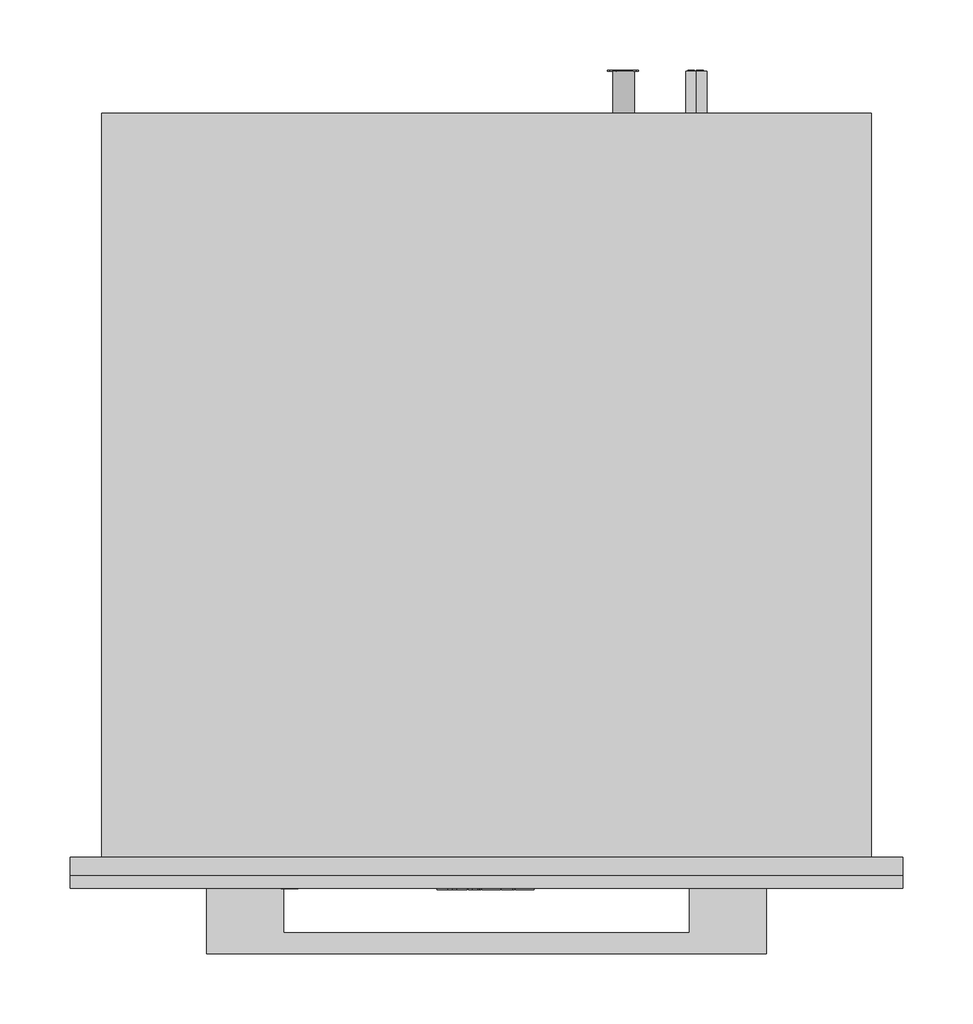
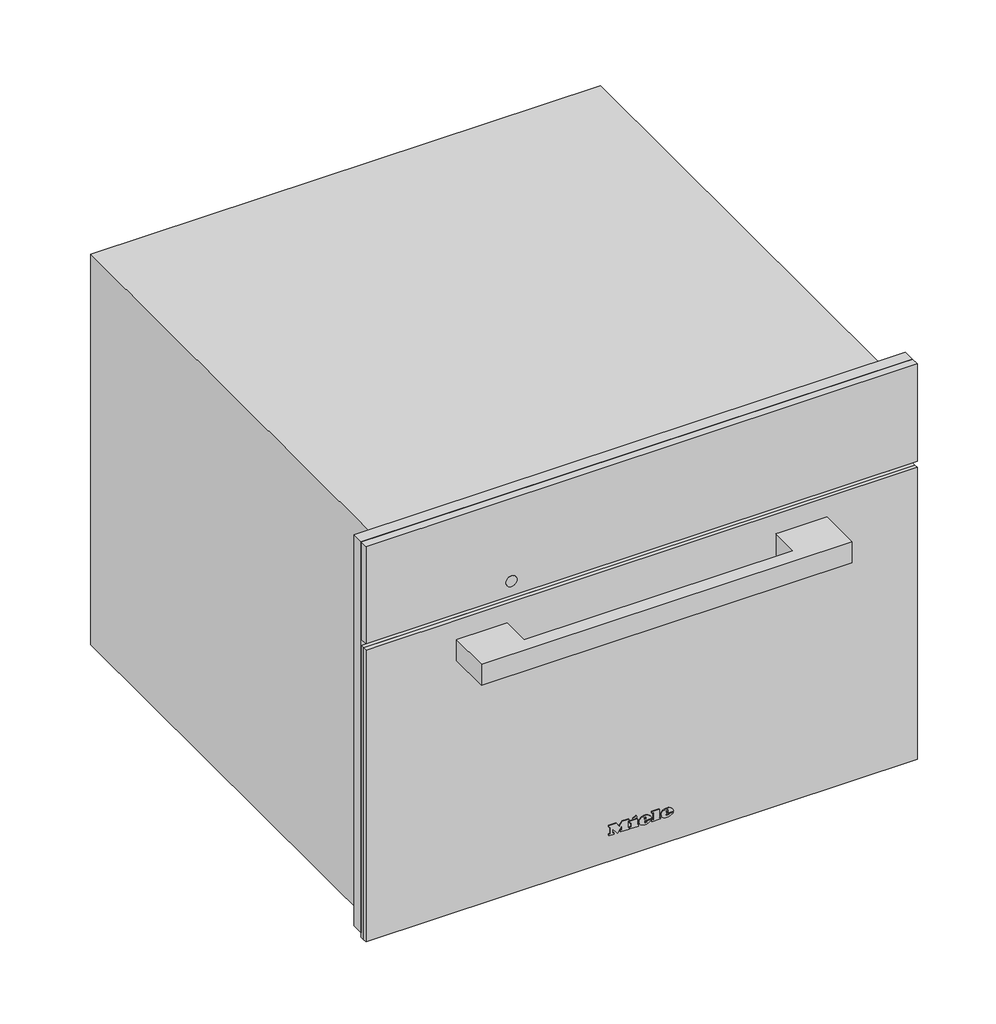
# Not in any storey: 1 proxy.
"""IFC4 building model written with IfcOpenShell, lengths in millimetres."""

import ifcopenshell
import ifcopenshell.guid

model = None  # the IFC model being written
_history = None  # IfcOwnerHistory: only IFC2X3 demands one
_inside = {}  # id of a spatial element -> (the spatial element, [elements in it])
_under = {}  # id of a project, library or spatial element -> (it, [spatial elements below it])
_declared = {}  # id of a project -> (the project, [libraries it declares])
_typed = {}  # id of a type object -> (the type object, [elements of that type])
_made_of = {}  # id of a material, layer set ... -> (it, [elements and type objects made of it])


def new_model(schema):
    """Start an empty IFC model of exactly this schema.

    Asked for "IFC4X3", IfcOpenShell would pick the latest addendum, in which some entities
    have other attributes; the version numbers below select the first issue.
    IFC2X3 requires an IfcOwnerHistory on every rooted entity: one is made here for all.
    """
    global model, _history
    if schema == "IFC4X3":
        model = ifcopenshell.file(schema_version=(4, 3, 0, 0))
    else:
        model = ifcopenshell.file(schema=schema)
    _inside.clear()
    _under.clear()
    _declared.clear()
    _typed.clear()
    _made_of.clear()
    _history = None
    if model.schema == "IFC2X3":
        org = make("IfcOrganization", Name="unknown")
        user = make(
            "IfcPersonAndOrganization",
            ThePerson=make("IfcPerson", FamilyName="unknown"),
            TheOrganization=org,
        )
        app = make(
            "IfcApplication",
            ApplicationDeveloper=org,
            Version="unknown",
            ApplicationFullName="unknown",
            ApplicationIdentifier="unknown",
        )
        _history = make(
            "IfcOwnerHistory",
            OwningUser=user,
            OwningApplication=app,
            ChangeAction="ADDED",
            CreationDate=0,
        )
    return model


def make(cls, **values):
    """One entity of the class cls with the attributes given. An attribute that is None is left unset."""
    return model.create_entity(
        cls, **{name: value for name, value in values.items() if value is not None}
    )


def rooted(cls, **values):
    """An entity with a GlobalId (a new one), such as an element, a storey or a relation."""
    return make(cls, GlobalId=ifcopenshell.guid.new(), OwnerHistory=_history, **values)


def si_unit(unit_type, name, prefix=None):
    """IfcSIUnit, for example si_unit("LENGTHUNIT", "METRE", prefix="MILLI")."""
    return make("IfcSIUnit", UnitType=unit_type, Prefix=prefix, Name=name)


def assignment(units):
    """IfcUnitAssignment: the units of a project."""
    return None if units is None else make("IfcUnitAssignment", Units=units)


def point(xyz):
    """IfcCartesianPoint."""
    return None if xyz is None else make("IfcCartesianPoint", Coordinates=xyz)


def direction(xyz):
    """IfcDirection."""
    return None if xyz is None else make("IfcDirection", DirectionRatios=xyz)


def frame(location, z_axis=None, x_axis=None):
    """IfcAxis2Placement3D, a coordinate frame: its origin and axes. An axis left out is left unset."""
    return make(
        "IfcAxis2Placement3D",
        Location=point(location),
        Axis=direction(z_axis),
        RefDirection=direction(x_axis),
    )


def frame_2d(location, x_axis=None):
    """IfcAxis2Placement2D, a coordinate frame in the plane: its origin and x axis."""
    return make(
        "IfcAxis2Placement2D", Location=point(location), RefDirection=direction(x_axis)
    )


def origin():
    """The frame at (0, 0, 0) with its axes left unset."""
    return frame((0.0, 0.0, 0.0))


def place(relative_to, where):
    """IfcLocalPlacement: puts the frame where relative to a parent placement (None: the world)."""
    return make(
        "IfcLocalPlacement", PlacementRelTo=relative_to, RelativePlacement=where
    )


def context(
    kind, dimensions, precision=None, world=None, true_north=None, identifier=None
):
    """IfcGeometricRepresentationContext, for example the 3D "Model" context."""
    return make(
        "IfcGeometricRepresentationContext",
        ContextIdentifier=identifier,
        ContextType=kind,
        CoordinateSpaceDimension=dimensions,
        Precision=precision,
        WorldCoordinateSystem=world,
        TrueNorth=true_north,
    )


def project(units=None, contexts=None):
    """IfcProject with its units and contexts."""
    return rooted(
        "IfcProject",
        Name="project",
        RepresentationContexts=contexts,
        UnitsInContext=assignment(units),
    )


def spatial(cls, under=None, at=None, **own):
    """A site, building, storey or space (cls), placed at a placement, below another one or the project."""
    s = rooted(cls, ObjectPlacement=at, **own)
    if under is not None:
        _under.setdefault(under.id(), (under, []))[1].append(s)
    return s


def polyline(points):
    """IfcPolyline through the points."""
    return make("IfcPolyline", Points=[point(p) for p in points])


def circle_curve(where, radius):
    """IfcCircle in the frame where."""
    return make("IfcCircle", Position=where, Radius=radius)


def ellipse_curve(where, semi_axis1, semi_axis2):
    """IfcEllipse in the frame where."""
    return make(
        "IfcEllipse", Position=where, SemiAxis1=semi_axis1, SemiAxis2=semi_axis2
    )


def trimmed(basis, trim1, trim2, sense, master):
    """IfcTrimmedCurve: the piece of a basis curve between two trims."""
    return make(
        "IfcTrimmedCurve",
        BasisCurve=basis,
        Trim1=trim1,
        Trim2=trim2,
        SenseAgreement=sense,
        MasterRepresentation=master,
    )


def segment(curve, same_sense, transition):
    """IfcCompositeCurveSegment."""
    return make(
        "IfcCompositeCurveSegment",
        Transition=transition,
        SameSense=same_sense,
        ParentCurve=curve,
    )


def composite_curve(segments, self_intersect=None):
    """IfcCompositeCurve: segments joined end to end."""
    return make("IfcCompositeCurve", Segments=segments, SelfIntersect=self_intersect)


def outline(outer, holes=None, kind="AREA"):
    """IfcArbitraryClosedProfileDef: a profile drawn as a closed curve; with holes, ...WithVoids."""
    if holes is None:
        return make("IfcArbitraryClosedProfileDef", ProfileType=kind, OuterCurve=outer)
    return make(
        "IfcArbitraryProfileDefWithVoids",
        ProfileType=kind,
        OuterCurve=outer,
        InnerCurves=holes,
    )


def extrude(swept, where, along, depth):
    """IfcExtrudedAreaSolid: the profile swept, set in the frame where, extruded along a direction by depth."""
    return make(
        "IfcExtrudedAreaSolid",
        SweptArea=swept,
        Position=where,
        ExtrudedDirection=direction(along),
        Depth=depth,
    )


def faces_of(points, faces, orient=None, outer=None):
    """IfcFace entities. A face is a list of loops; a loop is a list of indices into points, from 0.

    orient and outer hold one flag for each loop. By default every Orientation is true, the
    first loop of a face is its IfcFaceOuterBound and the others are IfcFaceBound.
    """
    made = []
    for i, loops in enumerate(faces):
        bounds = []
        for j, loop in enumerate(loops):
            is_outer = j == 0 if outer is None else outer[i][j]
            bounds.append(
                make(
                    "IfcFaceOuterBound" if is_outer else "IfcFaceBound",
                    Bound=make("IfcPolyLoop", Polygon=[points[k] for k in loop]),
                    Orientation=True if orient is None else orient[i][j],
                )
            )
        made.append(make("IfcFace", Bounds=bounds))
    return made


def faceted_brep(points, faces, orient=None, outer=None, voids=None):
    """IfcFacetedBrep: a solid bounded by flat faces; with voids (closed shells), ...WithVoids."""
    shared = [point(p) for p in points]
    hull = make("IfcClosedShell", CfsFaces=faces_of(shared, faces, orient, outer))
    if voids is None:
        return make("IfcFacetedBrep", Outer=hull)
    return make(
        "IfcFacetedBrepWithVoids",
        Outer=hull,
        Voids=[
            make(cls, CfsFaces=faces_of(shared, fs, o, b)) for cls, fs, o, b in voids
        ],
    )


def shape(context_of_items, identifier, shape_type, items):
    """IfcShapeRepresentation: the items that make up one representation, for example the "Body"."""
    return make(
        "IfcShapeRepresentation",
        ContextOfItems=context_of_items,
        RepresentationIdentifier=identifier,
        RepresentationType=shape_type,
        Items=items,
    )


def source(mapping_origin, context_of_items, identifier, shape_type, items):
    """IfcRepresentationMap: a shape defined once, which mapped items show again and again."""
    return make(
        "IfcRepresentationMap",
        MappingOrigin=mapping_origin,
        MappedRepresentation=shape(context_of_items, identifier, shape_type, items),
    )


def transform(
    local_origin,
    x_axis=None,
    y_axis=None,
    z_axis=None,
    scale=None,
    scale2=None,
    scale3=None,
    uniform=True,
):
    """IfcCartesianTransformationOperator3D, or its non-uniform kind. x_axis, y_axis, z_axis: its Axis1, 2, 3."""
    if uniform:
        return make(
            "IfcCartesianTransformationOperator3D",
            Axis1=direction(x_axis),
            Axis2=direction(y_axis),
            LocalOrigin=point(local_origin),
            Scale=scale,
            Axis3=direction(z_axis),
        )
    return make(
        "IfcCartesianTransformationOperator3DnonUniform",
        Axis1=direction(x_axis),
        Axis2=direction(y_axis),
        LocalOrigin=point(local_origin),
        Scale=scale,
        Axis3=direction(z_axis),
        Scale2=scale2,
        Scale3=scale3,
    )


def mapped(mapping_source, mapping_target):
    """IfcMappedItem: shows the shape of a source again, moved by a transform."""
    return make(
        "IfcMappedItem", MappingSource=mapping_source, MappingTarget=mapping_target
    )


def made_of(thing, what):
    """Note that an element or type object is made of a material, layer set ...; save() writes the relation."""
    if what is not None:
        _made_of.setdefault(what.id(), (what, []))[1].append(thing)
    return thing


def element(
    cls,
    number,
    at=None,
    inside=None,
    cuts=None,
    type_object=None,
    material=None,
    context=None,
    identifier="Body",
    shape_type=None,
    held_by="IfcProductDefinitionShape",
    body=None,
    shapes=None,
    **own,
):
    """One element of the class cls, such as IfcWall. Its Tag is "e" and its number.

    at: its placement. inside: the storey or other place that contains it. cuts: it is an
    opening in that element (IfcRelVoidsElement). A single representation is given by context,
    identifier, shape_type and body (its items); several are given by shapes. held_by: the class
    of the entity that holds the representations. save() writes the other relations.
    """
    e = rooted(cls, Tag="e%d" % number, ObjectPlacement=at, **own)
    if body is not None:
        shapes = [shape(context, identifier, shape_type, body)]
    if shapes is not None:
        e.Representation = make(held_by, Representations=shapes)
    if inside is not None:
        _inside.setdefault(inside.id(), (inside, []))[1].append(e)
    if cuts is not None:
        rooted(
            "IfcRelVoidsElement", RelatingBuildingElement=cuts, RelatedOpeningElement=e
        )
    if type_object is not None:
        _typed.setdefault(type_object.id(), (type_object, []))[1].append(e)
    return made_of(e, material)


def aggregate(whole, parts):
    """IfcRelAggregates: a whole, such as a stair, and the parts it consists of."""
    return rooted("IfcRelAggregates", RelatingObject=whole, RelatedObjects=parts)


def save(model, path):
    """Write the relations noted so far, then the file.

    IfcRelAggregates (storeys below a building ...), IfcRelContainedInSpatialStructure (elements
    in a storey), IfcRelDefinesByType, IfcRelAssociatesMaterial and IfcRelDeclares: one each for
    every whole, place, type object, material and project.
    """
    for whole, parts in _under.values():
        aggregate(whole, parts)
    for where, things in _inside.values():
        rooted(
            "IfcRelContainedInSpatialStructure",
            RelatedElements=things,
            RelatingStructure=where,
        )
    for kind, things in _typed.values():
        rooted("IfcRelDefinesByType", RelatedObjects=things, RelatingType=kind)
    for what, things in _made_of.values():
        rooted("IfcRelAssociatesMaterial", RelatedObjects=things, RelatingMaterial=what)
    for by, libraries in _declared.values():
        rooted("IfcRelDeclares", RelatingContext=by, RelatedDefinitions=libraries)
    model.write(path)


def plane_surface(at):
    """IfcPlane: the flat surface through the origin of the frame at, square to its z axis."""
    return make("IfcPlane", Position=at)


def cylinder_surface(at, radius):
    """IfcCylindricalSurface: all points at the distance radius from the z axis of the frame at."""
    return make("IfcCylindricalSurface", Position=at, Radius=radius)


def revolved_surface(curve, axis_point, axis_direction):
    """IfcSurfaceOfRevolution: the curve turned about the line through axis_point along axis_direction."""
    return make(
        "IfcSurfaceOfRevolution",
        SweptCurve=make("IfcArbitraryOpenProfileDef", ProfileType="CURVE", Curve=curve),
        AxisPosition=make("IfcAxis1Placement", Location=point(axis_point), Axis=direction(axis_direction)),
    )


def extruded_surface(curve, direction_of_extrusion, depth):
    """IfcSurfaceOfLinearExtrusion: the curve pushed along a direction by depth."""
    return make(
        "IfcSurfaceOfLinearExtrusion",
        SweptCurve=make("IfcArbitraryOpenProfileDef", ProfileType="CURVE", Curve=curve),
        ExtrudedDirection=direction(direction_of_extrusion),
        Depth=depth,
    )


def advanced_brep(points, edges, surfaces, faces):
    """IfcAdvancedBrep: a solid bounded by faces that lie on surfaces and meet in shared edges.

    An edge is (start, end): straight between two places in points (the first is 0);
    or (start, end, curve); or (start, end, curve, False) where it runs against its curve.
    A face is (place in surfaces, loops), or (place, loops, False) where it looks against
    its surface's normal. A loop lists edges by number (the first is 1), with a minus sign
    where the edge is run from its end to its start. The first loop is the outer one.
    """
    corners = [point(p) for p in points]
    vertices = [make("IfcVertexPoint", VertexGeometry=c) for c in corners]
    made = []
    for start, end, *more in edges:
        made.append(
            make(
                "IfcEdgeCurve",
                EdgeStart=vertices[start],
                EdgeEnd=vertices[end],
                EdgeGeometry=more[0] if more else make("IfcPolyline", Points=[corners[start], corners[end]]),
                SameSense=more[1] if len(more) > 1 else True,
            )
        )
    hull = []
    for where, loops, *sense in faces:
        bounds = []
        for j, loop in enumerate(loops):
            ring = [make("IfcOrientedEdge", EdgeElement=made[abs(k) - 1], Orientation=k > 0) for k in loop]
            bounds.append(
                make(
                    "IfcFaceOuterBound" if j == 0 else "IfcFaceBound",
                    Bound=make("IfcEdgeLoop", EdgeList=ring),
                    Orientation=True,
                )
            )
        hull.append(make("IfcAdvancedFace", Bounds=bounds, FaceSurface=surfaces[where], SameSense=sense[0] if sense else True))
    return make("IfcAdvancedBrep", Outer=make("IfcClosedShell", CfsFaces=hull))


def specialty_equipment_98d2ad13(model_context):
    return source(origin(), model_context, "Body", "SolidModel", [
        extrude(outline(polyline([(455.0, 297.5), (455.0, -297.5), (9.0, -297.5), (9.0, -272.5), (344.0, -272.5), (344.0, 272.5), (9.0, 272.5), (9.0, 297.5), (455.0, 297.5)])), frame((0.0, -13.0, 0.0), z_axis=(0.0, 1.0, 0.0), x_axis=(0.0, 0.0, 1.0)), (0.0, 0.0, 1.0), 13.0),
        extrude(outline(polyline([(378.0, 95.9217896), (378.0, 97.4267862), (388.0435673, 100.1942402), (388.0435673, 98.9014806), (379.4295103, 96.7797951), (388.0470645, 94.3087512), (388.0470645, 92.4373937), (379.4121052, 89.9191482), (388.0472266, 87.8443938), (388.0472266, 86.5376524), (378.0, 89.2769667), (378.0, 90.6257455), (386.8347238, 93.3884733), (378.0, 95.9217896)])), frame((0.0, 561.0, 0.0), z_axis=(0.0, 1.0, 0.0), x_axis=(0.0, 0.0, 1.0)), (0.0, 0.0, 1.0), 1.0),
        extrude(outline(polyline([(388.0468463, 108.521488), (388.0468463, 107.2566067), (383.129594, 107.2566067), (388.0474898, 102.1074328), (388.0474898, 100.3597489), (383.9313111, 104.6695027), (378.0, 100.1858157), (378.0, 101.7358731), (383.0700777, 105.5685235), (381.4282746, 107.2823622), (378.0, 107.2823622), (378.0, 108.521488), (388.0468463, 108.521488)])), frame((0.0, 561.0, 0.0), z_axis=(0.0, 1.0, 0.0), x_axis=(0.0, 0.0, 1.0)), (0.0, 0.0, 1.0), 1.0),
        advanced_brep(
        [(150.0, 561.0, 410.5), (150.0, 561.0, 395.5), (144.4098301, 561.0, 398.0), (148.5, 561.0, 398.0), (148.5, 561.0, 408.0), (147.4955303, 561.0, 408.0), (147.4955303, 561.0, 399.0), (144.0315043, 561.0, 399.0), (144.0315043, 561.0, 398.4582978), (155.0, 561.0, 398.0), (155.0, 561.0, 408.0), (150.0, 561.0, 408.0), (150.0, 561.0, 407.0), (154.0, 561.0, 407.0), (154.0, 561.0, 403.5), (151.0, 561.0, 403.5), (151.0, 561.0, 402.5), (154.0, 561.0, 402.5), (154.0, 561.0, 399.0), (150.0, 561.0, 399.0), (150.0, 561.0, 398.0), (150.0, 531.0, 395.5), (150.0, 531.0, 410.5), (155.0, 562.0, 408.0), (155.0, 562.0, 398.0), (150.0, 562.0, 398.0), (150.0, 562.0, 399.0), (154.0, 562.0, 399.0), (154.0, 562.0, 402.5), (151.0, 562.0, 402.5), (151.0, 562.0, 403.5), (154.0, 562.0, 403.5), (154.0, 562.0, 407.0), (150.0, 562.0, 407.0), (150.0, 562.0, 408.0), (148.5, 562.0, 398.0), (144.0315043, 562.0, 398.0), (144.0315043, 562.0, 399.0), (147.4955303, 562.0, 399.0), (147.4955303, 562.0, 408.0), (148.5, 562.0, 408.0), (144.0315043, 561.0, 398.0)],
        [
            (0, 1, circle_curve(frame((150.0, 561.0, 403.0), z_axis=(0.0, 1.0, 0.0), x_axis=(0.0, 0.0, 1.0)), 7.5)),
            (1, 2, circle_curve(frame((150.0, 561.0, 403.0), z_axis=(0.0, 1.0, 0.0), x_axis=(0.0, 0.0, 1.0)), 7.5)),
            (2, 3),
            (3, 4),
            (4, 5),
            (5, 6),
            (6, 7),
            (7, 8),
            (8, 0, circle_curve(frame((150.0, 561.0, 403.0), z_axis=(0.0, 1.0, 0.0), x_axis=(0.0, 0.0, 1.0)), 7.5)),
            (9, 10),
            (10, 11),
            (11, 12),
            (12, 13),
            (13, 14),
            (14, 15),
            (15, 16),
            (16, 17),
            (17, 18),
            (18, 19),
            (19, 20),
            (20, 9),
            (21, 22, circle_curve(frame((150.0, 531.0, 403.0), z_axis=(0.0, -1.0, 0.0), x_axis=(0.0, 0.0, 1.0)), 7.5)),
            (22, 21, circle_curve(frame((150.0, 531.0, 403.0), z_axis=(0.0, -1.0, 0.0), x_axis=(0.0, 0.0, 1.0)), 7.5)),
            (0, 22),
            (21, 1),
            (8, 2, circle_curve(frame((150.0, 561.0, 403.0), z_axis=(0.0, -1.0, 0.0), x_axis=(0.0, 0.0, 1.0)), 7.5)),
            (23, 24),
            (24, 25),
            (25, 26),
            (26, 27),
            (27, 28),
            (28, 29),
            (29, 30),
            (30, 31),
            (31, 32),
            (32, 33),
            (33, 34),
            (34, 23),
            (35, 36),
            (36, 37),
            (37, 38),
            (38, 39),
            (39, 40),
            (40, 35),
            (8, 41),
            (41, 2),
            (23, 10),
            (9, 24),
            (20, 25),
            (19, 26),
            (18, 27),
            (17, 28),
            (16, 29),
            (15, 30),
            (14, 31),
            (13, 32),
            (12, 33),
            (11, 34),
            (35, 3),
            (41, 36),
            (7, 37),
            (6, 38),
            (5, 39),
            (4, 40),
        ],
        [
            plane_surface(frame((150.0, 561.0, 410.5), z_axis=(0.0, 1.0, 0.0), x_axis=(1.0, 0.0, 0.0))),
            plane_surface(frame((150.0, 531.0, 410.5), z_axis=(0.0, -1.0, 0.0), x_axis=(-1.0, 0.0, 0.0))),
            cylinder_surface(frame((150.0, 561.0, 403.0), z_axis=(0.0, -1.0, 0.0), x_axis=(0.0, 0.0, 1.0)), 7.5),
            plane_surface(frame((155.0, 562.0, 408.0), z_axis=(0.0, 1.0, 0.0), x_axis=(0.0, 0.0, -1.0))),
            plane_surface(frame((155.0, 561.0, 408.0), z_axis=(0.0, -1.0, 0.0), x_axis=(0.0, 0.0, 1.0))),
            plane_surface(frame((155.0, 562.0, 408.0), z_axis=(1.0, 0.0, 0.0), x_axis=(0.0, -1.0, 0.0))),
            plane_surface(frame((155.0, 562.0, 398.0), z_axis=(0.0, 0.0, -1.0), x_axis=(0.0, -1.0, 0.0))),
            plane_surface(frame((150.0, 562.0, 398.0), z_axis=(-1.0, 0.0, 0.0), x_axis=(0.0, -1.0, 0.0))),
            plane_surface(frame((150.0, 562.0, 399.0), z_axis=(0.0, 0.0, 1.0), x_axis=(0.0, -1.0, 0.0))),
            plane_surface(frame((154.0, 562.0, 399.0), z_axis=(-1.0, 0.0, 0.0), x_axis=(0.0, -1.0, 0.0))),
            plane_surface(frame((154.0, 562.0, 402.5), z_axis=(0.0, 0.0, -1.0), x_axis=(0.0, -1.0, 0.0))),
            plane_surface(frame((151.0, 562.0, 402.5), z_axis=(-1.0, 0.0, 0.0), x_axis=(0.0, -1.0, 0.0))),
            plane_surface(frame((151.0, 562.0, 403.5), z_axis=(0.0, 0.0, 1.0), x_axis=(0.0, -1.0, 0.0))),
            plane_surface(frame((154.0, 562.0, 403.5), z_axis=(-1.0, 0.0, 0.0), x_axis=(0.0, -1.0, 0.0))),
            plane_surface(frame((154.0, 562.0, 407.0), z_axis=(0.0, 0.0, -1.0), x_axis=(0.0, -1.0, 0.0))),
            plane_surface(frame((150.0, 562.0, 407.0), z_axis=(-1.0, 0.0, 0.0), x_axis=(0.0, -1.0, 0.0))),
            plane_surface(frame((150.0, 562.0, 408.0), z_axis=(0.0, 0.0, 1.0), x_axis=(0.0, -1.0, 0.0))),
            plane_surface(frame((148.5, 562.0, 398.0), z_axis=(0.0, 0.0, -1.0), x_axis=(0.0, -1.0, 0.0))),
            plane_surface(frame((144.0315043, 562.0, 398.0), z_axis=(-1.0, 0.0, 0.0), x_axis=(0.0, -1.0, 0.0))),
            plane_surface(frame((144.0315043, 562.0, 399.0), z_axis=(0.0, 0.0, 1.0), x_axis=(0.0, -1.0, 0.0))),
            plane_surface(frame((147.4955303, 562.0, 399.0), z_axis=(-1.0, 0.0, 0.0), x_axis=(0.0, -1.0, 0.0))),
            plane_surface(frame((147.4955303, 562.0, 408.0), z_axis=(0.0, 0.0, 1.0), x_axis=(0.0, -1.0, 0.0))),
            plane_surface(frame((148.5, 562.0, 408.0), z_axis=(1.0, 0.0, 0.0), x_axis=(0.0, -1.0, 0.0))),
        ],
        [
            (0, [[1, 2, 3, 4, 5, 6, 7, 8, 9], [10, 11, 12, 13, 14, 15, 16, 17, 18, 19, 20, 21]]),
            (1, [[22, 23]]),
            (2, [[-1, 24, -22, 25]]),
            (2, [[-23, -24, -9, 26, -2, -25]]),
            (3, [[27, 28, 29, 30, 31, 32, 33, 34, 35, 36, 37, 38]]),
            (3, [[39, 40, 41, 42, 43, 44]]),
            (4, [[45, 46, -26]]),
            (5, [[-27, 47, -10, 48]]),
            (6, [[-28, -48, -21, 49]]),
            (7, [[-29, -49, -20, 50]]),
            (8, [[-30, -50, -19, 51]]),
            (9, [[-31, -51, -18, 52]]),
            (10, [[-32, -52, -17, 53]]),
            (11, [[-33, -53, -16, 54]]),
            (12, [[-34, -54, -15, 55]]),
            (13, [[-35, -55, -14, 56]]),
            (14, [[-36, -56, -13, 57]]),
            (15, [[-37, -57, -12, 58]]),
            (16, [[-38, -58, -11, -47]]),
            (17, [[-39, 59, -3, -46, 60]]),
            (18, [[-40, -60, -45, -8, 61]]),
            (19, [[-41, -61, -7, 62]]),
            (20, [[-42, -62, -6, 63]]),
            (21, [[-43, -63, -5, 64]]),
            (22, [[-44, -64, -4, -59]]),
        ],
    ),
        extrude(outline(composite_curve([segment(trimmed(circle_curve(frame_2d((383.0, 98.0)), 7.5), [point((383.0, 105.5))], [point((383.0, 90.5))], False, "CARTESIAN"), True, "CONTINUOUS"), segment(trimmed(circle_curve(frame_2d((383.0, 98.0)), 7.5), [point((383.0, 90.5))], [point((383.0, 105.5))], False, "CARTESIAN"), True, "CONTINUOUS")], self_intersect=False)), frame((0.0, 531.0, 0.0), z_axis=(0.0, 1.0, 0.0), x_axis=(0.0, 0.0, 1.0)), (0.0, 0.0, 1.0), 30.0),
        faceted_brep([(275.0, 531.0, 445.0), (275.0, 531.0, 0.0), (-275.0, 531.0, 0.0), (-275.0, 531.0, 445.0), (275.0, 0.0, 445.0), (-275.0, 0.0, 445.0), (-275.0, 0.0, 0.0), (275.0, 0.0, 0.0), (-272.5, 0.0, 344.0), (272.5, 0.0, 344.0), (272.5, 0.0, 8.0), (-272.5, 0.0, 8.0), (272.5, 12.0, 344.0), (-272.5, 12.0, 344.0), (-272.5, 12.0, 8.0), (272.5, 12.0, 8.0), (161.0, 12.0, 286.0), (161.0, 12.0, 58.0), (-220.0, 12.0, 58.0), (-220.0, 12.0, 286.0), (161.0, 419.0, 286.0), (-220.0, 419.0, 286.0), (-220.0, 419.0, 58.0), (161.0, 419.0, 58.0)], [[[0, 1, 2, 3]], [[4, 5, 6, 7], [8, 9, 10, 11]], [[0, 3, 5, 4]], [[3, 2, 6, 5]], [[2, 1, 7, 6]], [[1, 0, 4, 7]], [[12, 13, 14, 15], [16, 17, 18, 19]], [[13, 12, 9, 8]], [[14, 13, 8, 11]], [[15, 14, 11, 10]], [[12, 15, 10, 9]], [[20, 21, 22, 23]], [[20, 23, 17, 16]], [[23, 22, 18, 17]], [[22, 21, 19, 18]], [[21, 20, 16, 19]]]),
        advanced_brep(
        [(26.2998, -23.0, 36.7018), (26.2998, -23.0, 37.8532), (33.9264, -23.0, 37.8532), (20.6568, -23.0, 37.8532), (23.7918, -23.0, 34.0), (33.7326, -23.0, 36.7018), (30.2898, -23.0, 36.7018), (27.5766, -23.0, 35.425), (26.2998, -23.0, 39.3124), (26.2998, -23.0, 40.555), (28.2492, -23.0, 40.555), (28.2492, -23.0, 39.3124), (26.2998, -22.0, 36.7018), (27.5766, -22.0, 35.425), (30.2898, -22.0, 36.7018), (33.7326, -22.0, 36.7018), (23.7918, -22.0, 34.0), (20.6568, -22.0, 37.8532), (33.9264, -22.0, 37.8532), (26.2998, -22.0, 37.8532), (26.2998, -22.0, 39.3124), (28.2492, -22.0, 39.3124), (28.2492, -22.0, 40.555), (26.2998, -22.0, 40.555)],
        [
            (0, 1),
            (1, 2),
            (2, 3, ellipse_curve(frame((27.2916, -23.0, 37.8532), z_axis=(0.0, -1.0, 0.0), x_axis=(-1.0, 0.0, 0.0)), 6.6348, 5.4834)),
            (3, 4, circle_curve(frame((25.0686622, -23.0, 38.2408), z_axis=(0.0, -1.0, 0.0), x_axis=(0.0, 0.0, -1.0)), 4.4288556)),
            (4, 5, circle_curve(frame((27.1587808, -23.0, 41.2504), z_axis=(0.0, -1.0, 0.0), x_axis=(0.0, 0.0, -1.0)), 7.9940516)),
            (5, 6),
            (6, 7, circle_curve(frame((28.1338588, -23.0, 37.762), z_axis=(0.0, 1.0, 0.0), x_axis=(0.0, 0.0, -1.0)), 2.4025208)),
            (7, 0, circle_curve(frame((27.5766, -23.0, 36.7018), z_axis=(0.0, 1.0, 0.0), x_axis=(0.0, 0.0, -1.0)), 1.2768)),
            (8, 9),
            (9, 10, circle_curve(frame((27.2745, -23.0, 40.555), z_axis=(0.0, 1.0, 0.0), x_axis=(0.0, 0.0, -1.0)), 0.9747)),
            (10, 11),
            (11, 8),
            (12, 13, circle_curve(frame((27.5766, -22.0, 36.7018), z_axis=(0.0, -1.0, 0.0), x_axis=(0.0, 0.0, -1.0)), 1.2768)),
            (13, 14, circle_curve(frame((28.1338588, -22.0, 37.762), z_axis=(0.0, -1.0, 0.0), x_axis=(0.0, 0.0, -1.0)), 2.4025208)),
            (14, 15),
            (15, 16, circle_curve(frame((27.1587808, -22.0, 41.2504), z_axis=(0.0, 1.0, 0.0), x_axis=(0.0, 0.0, -1.0)), 7.9940516)),
            (16, 17, circle_curve(frame((25.0686622, -22.0, 38.2408), z_axis=(0.0, 1.0, 0.0), x_axis=(0.0, 0.0, -1.0)), 4.4288556)),
            (17, 18, ellipse_curve(frame((27.2916, -22.0, 37.8532), z_axis=(0.0, 1.0, 0.0), x_axis=(-1.0, 0.0, 0.0)), 6.6348, 5.4834)),
            (18, 19),
            (19, 12),
            (20, 21),
            (21, 22),
            (22, 23, circle_curve(frame((27.2745, -22.0, 40.555), z_axis=(0.0, -1.0, 0.0), x_axis=(0.0, 0.0, -1.0)), 0.9747)),
            (23, 20),
            (0, 12),
            (19, 1),
            (18, 2),
            (5, 15),
            (14, 6),
            (17, 3),
            (13, 7),
            (16, 4),
            (8, 20),
            (23, 9),
            (22, 10),
            (21, 11),
        ],
        [
            plane_surface(frame((26.2998, -23.0, 37.8532), z_axis=(0.0, -1.0, 0.0), x_axis=(0.0, 0.0, 1.0))),
            plane_surface(frame((26.2998, -22.0, 37.8532), z_axis=(0.0, 1.0, 0.0), x_axis=(0.0, 0.0, -1.0))),
            plane_surface(frame((26.2998, -23.0, 36.7018), z_axis=(1.0, 0.0, 0.0), x_axis=(0.0, 1.0, 0.0))),
            plane_surface(frame((26.2998, -23.0, 37.8532), z_axis=(0.0, 0.0, -1.0), x_axis=(0.0, 1.0, 0.0))),
            plane_surface(frame((33.7326, -23.0, 36.7018), z_axis=(0.0, 0.0, 1.0), x_axis=(0.0, 1.0, 0.0))),
            extruded_surface(trimmed(ellipse_curve(frame((27.2916, -21.0, 37.8532), z_axis=(0.0, -1.0, 0.0), x_axis=(-1.0, 0.0, 0.0)), 6.6348, 5.4834), [point((33.9264, -21.0, 37.8532))], [point((20.6568, -21.0, 37.8532))], True, "CARTESIAN"), (0.0, -1.0, 0.0), 1.0),
            revolved_surface(polyline([(28.1338588, -22.0, 35.3594792), (28.1338588, -23.0, 35.3594792)]), (28.1338588, -22.0, 37.762), (0.0, 1.0, 0.0)),
            revolved_surface(polyline([(27.5766, -22.0, 35.425), (27.5766, -23.0, 35.425)]), (27.5766, -22.0, 36.7018), (0.0, 1.0, 0.0)),
            cylinder_surface(frame((25.0686622, -22.0, 38.2408), z_axis=(0.0, -1.0, 0.0), x_axis=(0.0, 0.0, -1.0)), 4.4288556),
            cylinder_surface(frame((27.1587808, -22.0, 41.2504), z_axis=(0.0, -1.0, 0.0), x_axis=(0.0, 0.0, -1.0)), 7.9940516),
            plane_surface(frame((26.2998, -23.0, 39.3124), z_axis=(1.0, 0.0, 0.0), x_axis=(0.0, 1.0, 0.0))),
            revolved_surface(polyline([(27.2745, -22.0, 39.5803), (27.2745, -23.0, 39.5803)]), (27.2745, -22.0, 40.555), (0.0, 1.0, 0.0)),
            plane_surface(frame((28.2492, -23.0, 40.555), z_axis=(-1.0, 0.0, 0.0), x_axis=(0.0, 1.0, 0.0))),
            plane_surface(frame((28.2492, -23.0, 39.3124), z_axis=(0.0, 0.0, 1.0), x_axis=(0.0, 1.0, 0.0))),
        ],
        [
            (0, [[1, 2, 3, 4, 5, 6, 7, 8], [9, 10, 11, 12]]),
            (1, [[13, 14, 15, 16, 17, 18, 19, 20], [21, 22, 23, 24]]),
            (2, [[-1, 25, -20, 26]]),
            (3, [[-2, -26, -19, 27]]),
            (4, [[-6, 28, -15, 29]]),
            (5, [[-3, -27, -18, 30]]),
            (6, [[-7, -29, -14, 31]]),
            (7, [[-8, -31, -13, -25]]),
            (8, [[-4, -30, -17, 32]]),
            (9, [[-5, -32, -16, -28]]),
            (10, [[-9, 33, -24, 34]]),
            (11, [[-10, -34, -23, 35]]),
            (12, [[-11, -35, -22, 36]]),
            (13, [[-12, -36, -21, -33]]),
        ],
    ),
        advanced_brep(
        [(2.508, -23.0, 36.7018), (2.508, -23.0, 37.8532), (10.1346, -23.0, 37.8532), (-3.135, -23.0, 37.8532), (0.0, -23.0, 34.0), (9.9408, -23.0, 36.7018), (6.498, -23.0, 36.7018), (3.7848, -23.0, 35.425), (2.508, -23.0, 39.3124), (2.508, -23.0, 40.555), (4.4574, -23.0, 40.555), (4.4574, -23.0, 39.3124), (2.508, -22.0, 36.7018), (3.7848, -22.0, 35.425), (6.498, -22.0, 36.7018), (9.9408, -22.0, 36.7018), (0.0, -22.0, 34.0), (-3.135, -22.0, 37.8532), (10.1346, -22.0, 37.8532), (2.508, -22.0, 37.8532), (2.508, -22.0, 39.3124), (4.4574, -22.0, 39.3124), (4.4574, -22.0, 40.555), (2.508, -22.0, 40.555)],
        [
            (0, 1),
            (1, 2),
            (2, 3, ellipse_curve(frame((3.4998, -23.0, 37.8532), z_axis=(0.0, -1.0, 0.0), x_axis=(-1.0, 0.0, 0.0)), 6.6348, 5.4834)),
            (3, 4, circle_curve(frame((1.2768622, -23.0, 38.2408), z_axis=(0.0, -1.0, 0.0), x_axis=(0.0, 0.0, -1.0)), 4.4288556)),
            (4, 5, circle_curve(frame((3.3669808, -23.0, 41.2504), z_axis=(0.0, -1.0, 0.0), x_axis=(0.0, 0.0, -1.0)), 7.9940516)),
            (5, 6),
            (6, 7, circle_curve(frame((4.3420588, -23.0, 37.762), z_axis=(0.0, 1.0, 0.0), x_axis=(0.0, 0.0, -1.0)), 2.4025208)),
            (7, 0, circle_curve(frame((3.7848, -23.0, 36.7018), z_axis=(0.0, 1.0, 0.0), x_axis=(0.0, 0.0, -1.0)), 1.2768)),
            (8, 9),
            (9, 10, circle_curve(frame((3.4827, -23.0, 40.555), z_axis=(0.0, 1.0, 0.0), x_axis=(0.0, 0.0, -1.0)), 0.9747)),
            (10, 11),
            (11, 8),
            (12, 13, circle_curve(frame((3.7848, -22.0, 36.7018), z_axis=(0.0, -1.0, 0.0), x_axis=(0.0, 0.0, -1.0)), 1.2768)),
            (13, 14, circle_curve(frame((4.3420588, -22.0, 37.762), z_axis=(0.0, -1.0, 0.0), x_axis=(0.0, 0.0, -1.0)), 2.4025208)),
            (14, 15),
            (15, 16, circle_curve(frame((3.3669808, -22.0, 41.2504), z_axis=(0.0, 1.0, 0.0), x_axis=(0.0, 0.0, -1.0)), 7.9940516)),
            (16, 17, circle_curve(frame((1.2768622, -22.0, 38.2408), z_axis=(0.0, 1.0, 0.0), x_axis=(0.0, 0.0, -1.0)), 4.4288556)),
            (17, 18, ellipse_curve(frame((3.4998, -22.0, 37.8532), z_axis=(0.0, 1.0, 0.0), x_axis=(-1.0, 0.0, 0.0)), 6.6348, 5.4834)),
            (18, 19),
            (19, 12),
            (20, 21),
            (21, 22),
            (22, 23, circle_curve(frame((3.4827, -22.0, 40.555), z_axis=(0.0, -1.0, 0.0), x_axis=(0.0, 0.0, -1.0)), 0.9747)),
            (23, 20),
            (0, 12),
            (19, 1),
            (18, 2),
            (5, 15),
            (14, 6),
            (17, 3),
            (13, 7),
            (16, 4),
            (8, 20),
            (23, 9),
            (22, 10),
            (21, 11),
        ],
        [
            plane_surface(frame((2.508, -23.0, 37.8532), z_axis=(0.0, -1.0, 0.0), x_axis=(0.0, 0.0, 1.0))),
            plane_surface(frame((2.508, -22.0, 37.8532), z_axis=(0.0, 1.0, 0.0), x_axis=(0.0, 0.0, -1.0))),
            plane_surface(frame((2.508, -23.0, 36.7018), z_axis=(1.0, 0.0, 0.0), x_axis=(0.0, 1.0, 0.0))),
            plane_surface(frame((2.508, -23.0, 37.8532), z_axis=(0.0, 0.0, -1.0), x_axis=(0.0, 1.0, 0.0))),
            plane_surface(frame((9.9408, -23.0, 36.7018), z_axis=(0.0, 0.0, 1.0), x_axis=(0.0, 1.0, 0.0))),
            extruded_surface(trimmed(ellipse_curve(frame((3.4998, -21.0, 37.8532), z_axis=(0.0, -1.0, 0.0), x_axis=(-1.0, 0.0, 0.0)), 6.6348, 5.4834), [point((10.1346, -21.0, 37.8532))], [point((-3.135, -21.0, 37.8532))], True, "CARTESIAN"), (0.0, -1.0, 0.0), 1.0),
            revolved_surface(polyline([(4.3420588, -22.0, 35.3594792), (4.3420588, -23.0, 35.3594792)]), (4.3420588, -22.0, 37.762), (0.0, 1.0, 0.0)),
            revolved_surface(polyline([(3.7848, -22.0, 35.425), (3.7848, -23.0, 35.425)]), (3.7848, -22.0, 36.7018), (0.0, 1.0, 0.0)),
            cylinder_surface(frame((1.2768622, -22.0, 38.2408), z_axis=(0.0, -1.0, 0.0), x_axis=(0.0, 0.0, -1.0)), 4.4288556),
            cylinder_surface(frame((3.3669808, -22.0, 41.2504), z_axis=(0.0, -1.0, 0.0), x_axis=(0.0, 0.0, -1.0)), 7.9940516),
            plane_surface(frame((2.508, -23.0, 39.3124), z_axis=(1.0, 0.0, 0.0), x_axis=(0.0, 1.0, 0.0))),
            revolved_surface(polyline([(3.4827, -22.0, 39.5803), (3.4827, -23.0, 39.5803)]), (3.4827, -22.0, 40.555), (0.0, 1.0, 0.0)),
            plane_surface(frame((4.4574, -23.0, 40.555), z_axis=(-1.0, 0.0, 0.0), x_axis=(0.0, 1.0, 0.0))),
            plane_surface(frame((4.4574, -23.0, 39.3124), z_axis=(0.0, 0.0, 1.0), x_axis=(0.0, 1.0, 0.0))),
        ],
        [
            (0, [[1, 2, 3, 4, 5, 6, 7, 8], [9, 10, 11, 12]]),
            (1, [[13, 14, 15, 16, 17, 18, 19, 20], [21, 22, 23, 24]]),
            (2, [[-1, 25, -20, 26]]),
            (3, [[-2, -26, -19, 27]]),
            (4, [[-6, 28, -15, 29]]),
            (5, [[-3, -27, -18, 30]]),
            (6, [[-7, -29, -14, 31]]),
            (7, [[-8, -31, -13, -25]]),
            (8, [[-4, -30, -17, 32]]),
            (9, [[-5, -32, -16, -28]]),
            (10, [[-9, 33, -24, 34]]),
            (11, [[-10, -34, -23, 35]]),
            (12, [[-11, -35, -22, 36]]),
            (13, [[-12, -36, -21, -33]]),
        ],
    ),
        extrude(outline(polyline([(44.7274, -9.9522), (42.8806, -9.0858), (44.6818, -5.2212), (46.5286, -6.0762), (44.7274, -9.9522)])), frame((0.0, -23.0, 0.0), z_axis=(0.0, 1.0, 0.0), x_axis=(0.0, 0.0, 1.0)), (0.0, 0.0, 1.0), 1.0),
        extrude(outline(polyline([(42.6298, -12.768), (40.5892, -12.768), (40.5892, -11.4114), (35.9152, -11.4114), (35.9152, -12.768), (34.0, -12.768), (34.0, -3.7734), (35.9152, -3.7734), (35.9152, -5.0958), (42.6298, -5.0958), (42.6298, -12.768)])), frame((0.0, -23.0, 0.0), z_axis=(0.0, 1.0, 0.0), x_axis=(0.0, 0.0, 1.0)), (0.0, 0.0, 1.0), 1.0),
        extrude(outline(polyline([(43.5418, 10.773), (43.5418, 12.141), (35.9152, 12.141), (35.9152, 10.773), (34.0, 10.773), (34.0, 20.0184), (35.9152, 20.0184), (35.9152, 18.6162), (45.4, 18.6162), (45.4, 10.773), (43.5418, 10.773)])), frame((0.0, -23.0, 0.0), z_axis=(0.0, 1.0, 0.0), x_axis=(0.0, 0.0, 1.0)), (0.0, 0.0, 1.0), 1.0),
        extrude(outline(polyline([(43.5418, -35.4882), (43.5418, -34.1088), (35.9152, -34.1088), (35.9152, -35.4882), (34.0, -35.4882), (34.0, -30.4722), (35.9152, -30.4722), (35.9152, -31.8402), (40.7429247, -31.8402), (34.0, -26.7444), (40.9402223, -21.6258), (35.9152, -21.6258), (35.9152, -23.028), (34.0, -23.028), (34.0, -13.9308), (35.9152, -13.9308), (35.9152, -15.3786), (43.5418, -15.3786), (43.5418, -13.9308), (45.4, -13.9308), (45.4, -20.8734), (41.125, -24.2022), (45.4, -27.5424), (45.4, -35.4882), (43.5418, -35.4882)])), frame((0.0, -23.0, 0.0), z_axis=(0.0, 1.0, 0.0), x_axis=(0.0, 0.0, 1.0)), (0.0, 0.0, 1.0), 1.0),
        extrude(outline(polyline([(297.5, -22.0), (-297.5, -22.0), (-297.5, -13.0), (297.5, -13.0), (297.5, -22.0)])), frame((0.0, 0.0, 344.0), z_axis=(0.0, 0.0, 1.0), x_axis=(1.0, 0.0, 0.0)), (0.0, 0.0, 1.0), 111.0),
        extrude(outline(composite_curve([segment(trimmed(circle_curve(frame_2d((361.0, -140.5745637)), 6.0), [point((361.0, -146.5745637))], [point((361.0, -134.5745637))], False, "CARTESIAN"), True, "CONTINUOUS"), segment(trimmed(circle_curve(frame_2d((361.0, -140.5745637)), 6.0), [point((361.0, -134.5745637))], [point((361.0, -146.5745637))], False, "CARTESIAN"), True, "CONTINUOUS")], self_intersect=False)), frame((0.0, -22.5, 0.0), z_axis=(0.0, 1.0, 0.0), x_axis=(0.0, 0.0, 1.0)), (0.0, 0.0, 1.0), 1.0),
        extrude(outline(polyline([(-297.5, -18.0), (297.5, -18.0), (297.5, -22.0), (-297.5, -22.0), (-297.5, -18.0)])), frame((0.0, 0.0, 4.0), z_axis=(0.0, 0.0, 1.0), x_axis=(1.0, 0.0, 0.0)), (0.0, 0.0, 1.0), 333.0),
        extrude(outline(polyline([(297.5, -18.0), (-297.5, -18.0), (-297.5, -13.0), (297.5, -13.0), (297.5, -18.0)])), frame((0.0, 0.0, 4.0), z_axis=(0.0, 0.0, 1.0), x_axis=(1.0, 0.0, 0.0)), (0.0, 0.0, 1.0), 333.0),
        extrude(outline(polyline([(-200.0, -69.0), (-200.0, -22.0), (-145.0, -22.0), (-145.0, -54.0), (145.0, -54.0), (145.0, -22.0), (200.0, -22.0), (200.0, -69.0), (-200.0, -69.0)])), frame((0.0, 0.0, 291.0), z_axis=(0.0, 0.0, 1.0), x_axis=(1.0, 0.0, 0.0)), (0.0, 0.0, 1.0), 24.0),
    ])


model = new_model("IFC4")

# Units and contexts
model_context = context("Model", 3, world=origin())
ifc_project = project(units=[si_unit("LENGTHUNIT", "METRE", prefix="MILLI")], contexts=[model_context])

# Site, building
site = spatial("IfcSite", under=ifc_project)
building = spatial("IfcBuilding", under=site)

# Proxy
placement = place(None, origin())
specialty_equipment_shape = specialty_equipment_98d2ad13(model_context)
element("IfcBuildingElementProxy", 1, Name="11094530_GB_DGM7845_OBSW : 23784524_GB_11094530_DGM7845_OBSW", ObjectType="11094530_GB_DGM7845_OBSW : 23784524_GB_11094530_DGM7845_OBSW", at=placement, inside=building, context=model_context, shape_type="MappedRepresentation", body=[
    mapped(specialty_equipment_shape, transform((0.0, 0.0, 0.0), x_axis=(1.0, 0.0, 0.0), y_axis=(0.0, 1.0, 0.0), z_axis=(0.0, 0.0, 1.0))),
])

save(model, "model.ifc")
